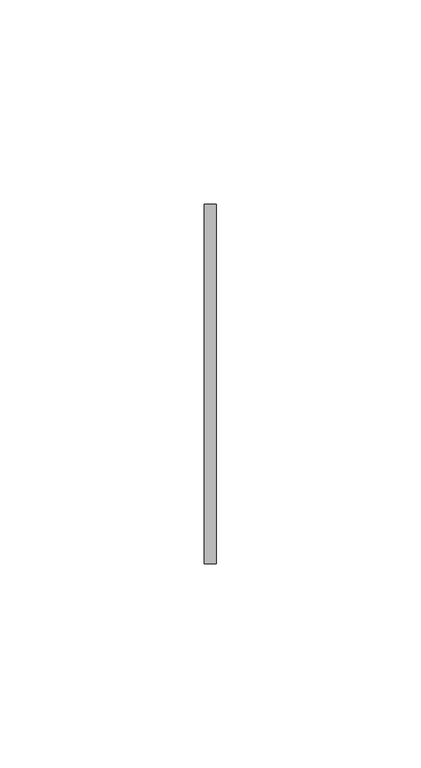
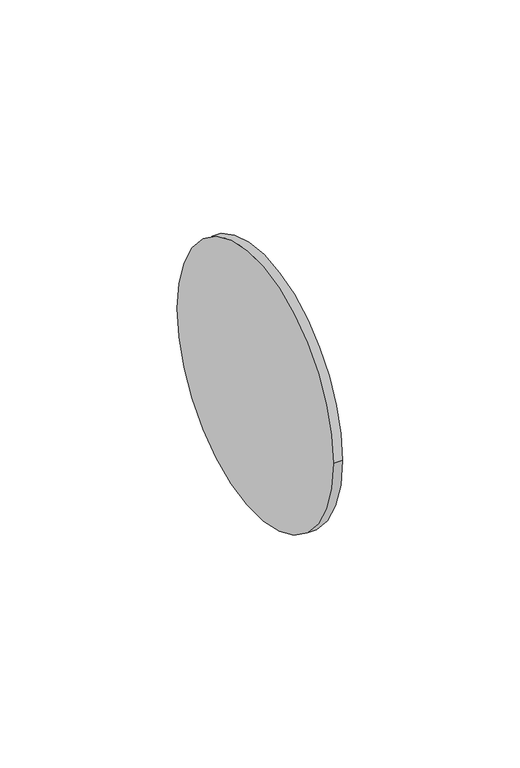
"""IFC4 building model written with IfcOpenShell, lengths in millimetres: pipe fitting geometry, PipeAccessory_GirpiHTA_CPVC_FlatGasketsForFlangeAdaptors : PipeAccessory_GirpiHTA_CPVC_FlatGasketsForFlangeAdaptors."""

from ifc_helpers import new_model, si_unit, point, frame, origin, origin_2d, place, context, project, spatial, circle_curve, trimmed, segment, composite_curve, outline, extrude, source, transform, mapped, element, save


def pipe_fitting_ff2e170f(model_context):
    return source(origin(), model_context, "Body", "SweptSolid", [
        extrude(outline(composite_curve([segment(trimmed(circle_curve(origin_2d(), 44.0), [point((-44.0, 0.0))], [point((44.0, 0.0))], False, "CARTESIAN"), True, "CONTINUOUS"), segment(trimmed(circle_curve(origin_2d(), 44.0), [point((44.0, 0.0))], [point((-44.0, 0.0))], False, "CARTESIAN"), True, "CONTINUOUS")], self_intersect=False)), frame((-1.5, 0.0, 0.0), z_axis=(1.0, 0.0, 0.0), x_axis=(0.0, 1.0, 0.0)), (0.0, 0.0, 1.0), 3.0),
    ])


if __name__ == "__main__":
    model = new_model("IFC4")
    model_context = context("Model", 3, world=origin())
    ifc_project = project(units=[si_unit("LENGTHUNIT", "METRE", prefix="MILLI")], contexts=[model_context])
    site = spatial("IfcSite", under=ifc_project)
    building = spatial("IfcBuilding", under=site)
    placement = place(None, origin())
    pipe_fitting_shape = pipe_fitting_ff2e170f(model_context)
    element("IfcPipeFitting", 1, ObjectType="PipeAccessory_GirpiHTA_CPVC_FlatGasketsForFlangeAdaptors : PipeAccessory_GirpiHTA_CPVC_FlatGasketsForFlangeAdaptors", at=placement, inside=building, context=model_context, shape_type="MappedRepresentation", body=[
        mapped(pipe_fitting_shape, transform((0.0, 0.0, 0.0), x_axis=(1.0, 0.0, 0.0), y_axis=(0.0, 1.0, 0.0), z_axis=(0.0, 0.0, 1.0))),
    ])
    save(model, "model.ifc")
